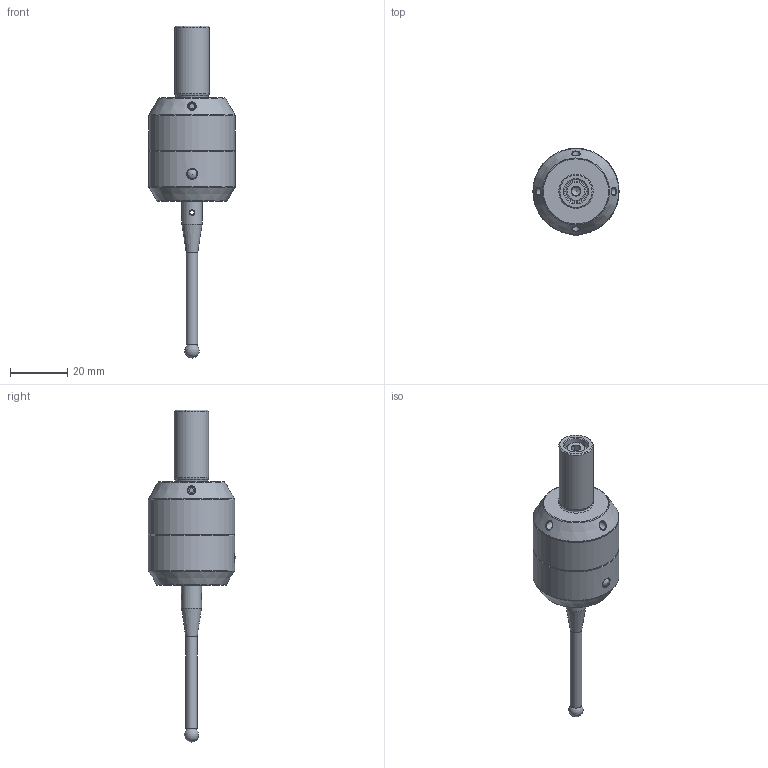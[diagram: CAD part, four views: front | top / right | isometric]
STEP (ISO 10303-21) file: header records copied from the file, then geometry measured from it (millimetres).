
FILE_DESCRIPTION(/* description */ (''),/* implementation_level */ '2;1');
FILE_NAME(/* name */ '3D Probe Assembly.stp',/* time_stamp */ '2024-01-12T06:29:57+08:00',/* author */ (''),/* organization */ (''),/* preprocessor_version */ 'ST-DEVELOPER v20',/* originating_system */ 'SIEMENS PLM Software NX2312.1700',/* authorisation */ '');
FILE_SCHEMA (('AUTOMOTIVE_DESIGN { 1 0 10303 214 3 1 1 1 }'));
Length unit declared in the file: millimetre
Products named in the file (13): PCB1_V1.03_step; LED_clearcover; Hex_Socket_Set_Screw_ISO_M3X6; Probe_M4x50xR5; Hex_Socket_Head_Cap_Screw_DIN_M4X35; Spring; Pole; MainShaft; Ball_R2.0; Shank; Enclosure_top; Enclosure_bottom; 3D Probe Assembly
Assembly tree (22 placements, depth 2):
  3D Probe Assembly
    Enclosure_bottom
    Enclosure_top
    Shank
    Ball_R2.0  x6
    MainShaft
    Pole  x3
    Spring
    Hex_Socket_Head_Cap_Screw_DIN_M4X35
    Probe_M4x50xR5
    Hex_Socket_Set_Screw_ISO_M3X6  x4
    LED_clearcover
    PCB1_V1.03_step
Bounding box: 30 x 30.37 x 115.52 mm (x, y, z)
Volume: 17903.9 mm3; surface area: 17540 mm2
Topology: 28 solids, 28 shells, 405 faces, 903 edges, 528 vertices
Faces by surface type: plane 164, cylinder 92, bspline 65, cone 60, torus 22, sphere 2
Full cylindrical faces by diameter (mm): 1.5 x1, 2.5 x3, 2.75 x1, 2.874 x4, 3 x2, 3.3 x2, 3.6 x1, 3.8 x6, 3.838 x1, 4 x8, 5 x1, 7 x3, 8 x2, 9 x4, 10 x1, 12 x1, 20 x1, 26 x2, 27 x1, 27.333 x1, 27.667 x1, 28.333 x1, 28.667 x1, 30 x2
Entity records: 11492 total; most frequent: CARTESIAN_POINT 4588, DIRECTION 1335, ORIENTED_EDGE 1114, EDGE_CURVE 557, AXIS2_PLACEMENT_3D 551, EDGE_LOOP 488, VERTEX_POINT 411, ADVANCED_FACE 319
